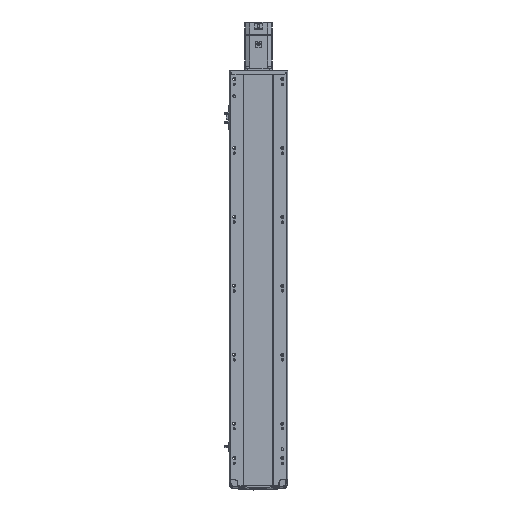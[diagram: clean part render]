
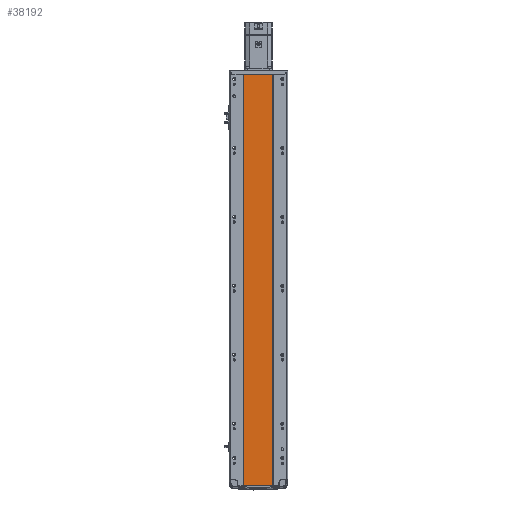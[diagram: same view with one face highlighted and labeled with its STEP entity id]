
A CAD part, front view. The second image highlights one B-rep face of the part: STEP entity #38192.
In plain terms, the highlighted planar face has unit normal (0, -1, 0).
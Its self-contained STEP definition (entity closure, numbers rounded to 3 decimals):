
#330 = VERTEX_POINT ( 'NONE', #32143 ) ;
#3463 = VECTOR ( 'NONE', #17611, 1000. ) ;
#7213 = VECTOR ( 'NONE', #27123, 1000. ) ;
#7355 = LINE ( 'NONE', #42562, #3463 ) ;
#7535 = CARTESIAN_POINT ( 'NONE',  ( 41.793, 0.998, 1193.5 ) ) ;
#7831 = ORIENTED_EDGE ( 'NONE', *, *, #31111, .T. ) ;
#8309 = VERTEX_POINT ( 'NONE', #44871 ) ;
#8511 = DIRECTION ( 'NONE',  ( 0., 0., -1. ) ) ;
#11075 = VECTOR ( 'NONE', #8511, 1000. ) ;
#11177 = AXIS2_PLACEMENT_3D ( 'NONE', #43742, #22808, #23513 ) ;
#15270 = LINE ( 'NONE', #31871, #47566 ) ;
#16689 = CARTESIAN_POINT ( 'NONE',  ( 41.793, 0.998, 1193.5 ) ) ;
#17581 = LINE ( 'NONE', #34992, #7213 ) ;
#17611 = DIRECTION ( 'NONE',  ( 0., 0., -1. ) ) ;
#17997 = CARTESIAN_POINT ( 'NONE',  ( -41.791, 1., 1193.5 ) ) ;
#18739 = ORIENTED_EDGE ( 'NONE', *, *, #48818, .F. ) ;
#19438 = ORIENTED_EDGE ( 'NONE', *, *, #21733, .F. ) ;
#21733 = EDGE_CURVE ( 'NONE', #50257, #8309, #22158, .T. ) ;
#22158 = LINE ( 'NONE', #16689, #11075 ) ;
#22808 = DIRECTION ( 'NONE',  ( 0., 1., 0. ) ) ;
#23513 = DIRECTION ( 'NONE',  ( -1., 0., 0. ) ) ;
#25377 = ORIENTED_EDGE ( 'NONE', *, *, #38609, .T. ) ;
#27123 = DIRECTION ( 'NONE',  ( 1., 0., 0. ) ) ;
#27519 = PLANE ( 'NONE',  #11177 ) ;
#27829 = DIRECTION ( 'NONE',  ( 1., 0., 0. ) ) ;
#31111 = EDGE_CURVE ( 'NONE', #51416, #330, #7355, .T. ) ;
#31624 = FACE_OUTER_BOUND ( 'NONE', #35639, .T. ) ;
#31871 = CARTESIAN_POINT ( 'NONE',  ( 0., 0.999, 0. ) ) ;
#32143 = CARTESIAN_POINT ( 'NONE',  ( -41.791, 1., 0. ) ) ;
#34992 = CARTESIAN_POINT ( 'NONE',  ( 0., 0.999, 1193.5 ) ) ;
#35639 = EDGE_LOOP ( 'NONE', ( #25377, #19438, #18739, #7831 ) ) ;
#38192 = ADVANCED_FACE ( 'NONE', ( #31624 ), #27519, .F. ) ;
#38609 = EDGE_CURVE ( 'NONE', #330, #8309, #15270, .T. ) ;
#42562 = CARTESIAN_POINT ( 'NONE',  ( -41.791, 1., 1193.5 ) ) ;
#43742 = CARTESIAN_POINT ( 'NONE',  ( 0., 0.999, 1193.5 ) ) ;
#44871 = CARTESIAN_POINT ( 'NONE',  ( 41.793, 0.998, 0. ) ) ;
#47566 = VECTOR ( 'NONE', #27829, 1000. ) ;
#48818 = EDGE_CURVE ( 'NONE', #51416, #50257, #17581, .T. ) ;
#50257 = VERTEX_POINT ( 'NONE', #7535 ) ;
#51416 = VERTEX_POINT ( 'NONE', #17997 ) ;
